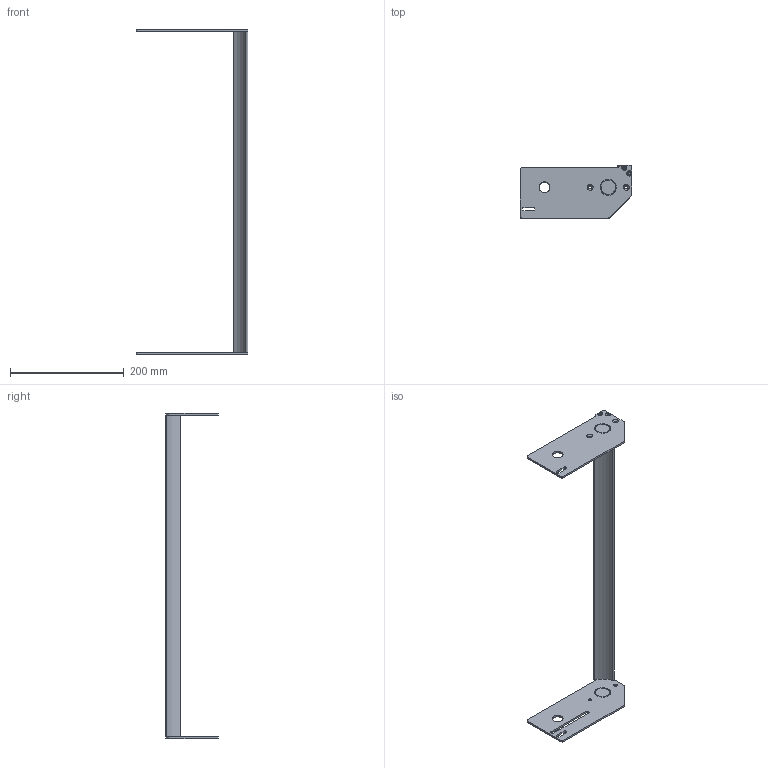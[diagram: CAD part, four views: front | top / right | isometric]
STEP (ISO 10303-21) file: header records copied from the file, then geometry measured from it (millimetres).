
FILE_DESCRIPTION((''),'2;1');
FILE_NAME('351040-22_ASM','2023-03-15T',('jenni.wallner'),(''),'PRO/ENGINEER BY PARAMETRIC TECHNOLOGY CORPORATION, 2012420','PRO/ENGINEER BY PARAMETRIC TECHNOLOGY CORPORATION, 2012420','');
FILE_SCHEMA(('CONFIG_CONTROL_DESIGN'));
Length unit declared in the file: inch
Products named in the file (6): 350537; 9304XXM_930410M; 350538; 350539-WW_350539-22; ASM0001_ASM; 351040-22_ASM
Assembly tree (8 placements, depth 3):
  351040-22_ASM
    ASM0001_ASM
      350537
      9304XXM_930410M  x4
      350538
      350539-WW_350539-22
Bounding box: 196.06 x 92.74 x 571.14 mm (x, y, z)
Volume: 258944.6 mm3; surface area: 132504.5 mm2
Topology: 7 solids, 7 shells, 216 faces, 536 edges, 334 vertices
Faces by surface type: cylinder 80, plane 76, cone 60
Entity records: 4971 total; most frequent: CARTESIAN_POINT 907, DIRECTION 885, ORIENTED_EDGE 790, EDGE_CURVE 395, AXIS2_PLACEMENT_3D 339, VERTEX_POINT 256, VECTOR 207, LINE 207
